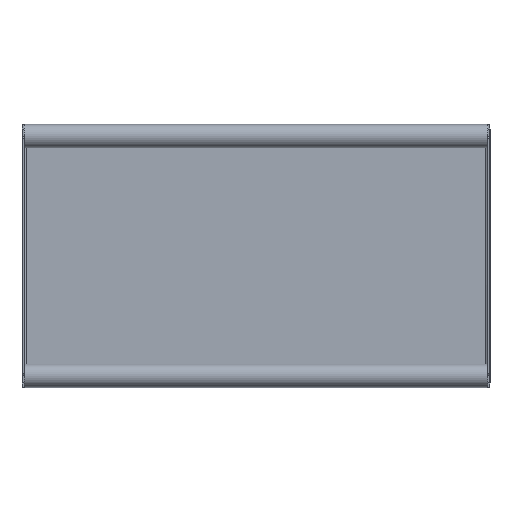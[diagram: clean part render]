
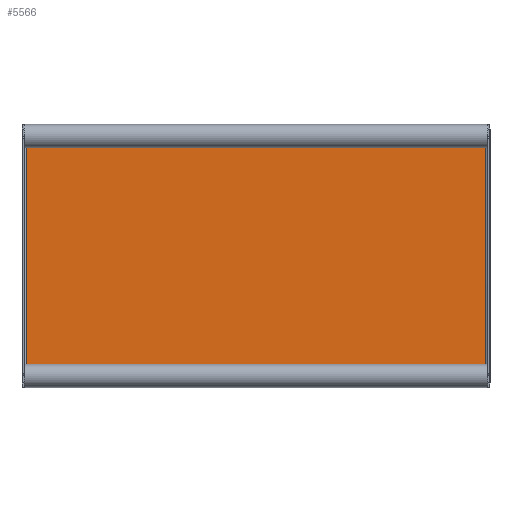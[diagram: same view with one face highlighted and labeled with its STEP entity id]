
A CAD part, front view. The second image highlights one B-rep face of the part: STEP entity #5566.
In plain terms, the highlighted planar face has unit normal (0, -1, 0).
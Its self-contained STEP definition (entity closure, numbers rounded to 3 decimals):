
#4 = VERTEX_POINT ( 'NONE', #8066 ) ;
#209 = DIRECTION ( 'NONE',  ( 0., 0., 1. ) ) ;
#298 = CARTESIAN_POINT ( 'NONE',  ( -195., -2., 108.5 ) ) ;
#339 = ORIENTED_EDGE ( 'NONE', *, *, #3906, .F. ) ;
#669 = CARTESIAN_POINT ( 'NONE',  ( -199., -2., -108.5 ) ) ;
#846 = EDGE_CURVE ( 'NONE', #1176, #7858, #3732, .T. ) ;
#882 = DIRECTION ( 'NONE',  ( 0., -1., 0. ) ) ;
#1108 = CIRCLE ( 'NONE', #4783, 5. ) ;
#1115 = EDGE_CURVE ( 'NONE', #7905, #5925, #1269, .T. ) ;
#1176 = VERTEX_POINT ( 'NONE', #3831 ) ;
#1269 = LINE ( 'NONE', #6132, #6744 ) ;
#1504 = EDGE_CURVE ( 'NONE', #5925, #10152, #5273, .T. ) ;
#1653 = VECTOR ( 'NONE', #7944, 1000. ) ;
#1668 = CARTESIAN_POINT ( 'NONE',  ( -199., -2., -111.5 ) ) ;
#2239 = ORIENTED_EDGE ( 'NONE', *, *, #6024, .F. ) ;
#2288 = DIRECTION ( 'NONE',  ( 0., -1., 0. ) ) ;
#2372 = CARTESIAN_POINT ( 'NONE',  ( -196., -2., 107.5 ) ) ;
#2518 = EDGE_CURVE ( 'NONE', #9271, #4, #1108, .T. ) ;
#2580 = CARTESIAN_POINT ( 'NONE',  ( 195., -2., -108.5 ) ) ;
#2634 = AXIS2_PLACEMENT_3D ( 'NONE', #3609, #9202, #10078 ) ;
#3089 = CARTESIAN_POINT ( 'NONE',  ( -199., -2., 108.5 ) ) ;
#3323 = VERTEX_POINT ( 'NONE', #5680 ) ;
#3477 = ORIENTED_EDGE ( 'NONE', *, *, #9228, .F. ) ;
#3609 = CARTESIAN_POINT ( 'NONE',  ( -199., -2., -111.5 ) ) ;
#3732 = LINE ( 'NONE', #669, #6248 ) ;
#3759 = ORIENTED_EDGE ( 'NONE', *, *, #8896, .T. ) ;
#3774 = DIRECTION ( 'NONE',  ( 0., 0., 1. ) ) ;
#3796 = DIRECTION ( 'NONE',  ( 0., 0., 1. ) ) ;
#3831 = CARTESIAN_POINT ( 'NONE',  ( -195., -2., -108.5 ) ) ;
#3906 = EDGE_CURVE ( 'NONE', #1176, #7905, #7114, .T. ) ;
#3970 = CIRCLE ( 'NONE', #6972, 5. ) ;
#3971 = CARTESIAN_POINT ( 'NONE',  ( 196., -2., -111.5 ) ) ;
#4027 = LINE ( 'NONE', #3971, #1653 ) ;
#4338 = ORIENTED_EDGE ( 'NONE', *, *, #1504, .F. ) ;
#4783 = AXIS2_PLACEMENT_3D ( 'NONE', #6865, #2288, #3796 ) ;
#5223 = CARTESIAN_POINT ( 'NONE',  ( -196., -2., -107.5 ) ) ;
#5231 = PLANE ( 'NONE',  #2634 ) ;
#5273 = CIRCLE ( 'NONE', #5600, 5. ) ;
#5566 = ADVANCED_FACE ( 'NONE', ( #6944 ), #5231, .F. ) ;
#5600 = AXIS2_PLACEMENT_3D ( 'NONE', #8281, #5848, #8180 ) ;
#5680 = CARTESIAN_POINT ( 'NONE',  ( 196., -2., -107.5 ) ) ;
#5694 = CARTESIAN_POINT ( 'NONE',  ( 195., -2., 108.5 ) ) ;
#5848 = DIRECTION ( 'NONE',  ( 0., -1., 0. ) ) ;
#5925 = VERTEX_POINT ( 'NONE', #2372 ) ;
#6024 = EDGE_CURVE ( 'NONE', #10152, #9271, #8713, .T. ) ;
#6132 = CARTESIAN_POINT ( 'NONE',  ( -196., -2., -111.5 ) ) ;
#6248 = VECTOR ( 'NONE', #8483, 1000. ) ;
#6278 = DIRECTION ( 'NONE',  ( 1., 0., 0. ) ) ;
#6464 = DIRECTION ( 'NONE',  ( 0., 0., 1. ) ) ;
#6744 = VECTOR ( 'NONE', #3774, 1000. ) ;
#6865 = CARTESIAN_POINT ( 'NONE',  ( 199., -2., 111.5 ) ) ;
#6944 = FACE_OUTER_BOUND ( 'NONE', #7885, .T. ) ;
#6972 = AXIS2_PLACEMENT_3D ( 'NONE', #8878, #8082, #209 ) ;
#7114 = CIRCLE ( 'NONE', #8415, 5. ) ;
#7609 = VECTOR ( 'NONE', #6278, 1000. ) ;
#7858 = VERTEX_POINT ( 'NONE', #2580 ) ;
#7885 = EDGE_LOOP ( 'NONE', ( #3477, #3759, #9925, #2239, #4338, #8283, #339, #8232 ) ) ;
#7905 = VERTEX_POINT ( 'NONE', #5223 ) ;
#7944 = DIRECTION ( 'NONE',  ( 0., 0., 1. ) ) ;
#8066 = CARTESIAN_POINT ( 'NONE',  ( 196., -2., 107.5 ) ) ;
#8082 = DIRECTION ( 'NONE',  ( 0., -1., 0. ) ) ;
#8180 = DIRECTION ( 'NONE',  ( 0., 0., 1. ) ) ;
#8232 = ORIENTED_EDGE ( 'NONE', *, *, #846, .T. ) ;
#8281 = CARTESIAN_POINT ( 'NONE',  ( -199., -2., 111.5 ) ) ;
#8283 = ORIENTED_EDGE ( 'NONE', *, *, #1115, .F. ) ;
#8415 = AXIS2_PLACEMENT_3D ( 'NONE', #1668, #882, #6464 ) ;
#8483 = DIRECTION ( 'NONE',  ( 1., 0., 0. ) ) ;
#8713 = LINE ( 'NONE', #3089, #7609 ) ;
#8878 = CARTESIAN_POINT ( 'NONE',  ( 199., -2., -111.5 ) ) ;
#8896 = EDGE_CURVE ( 'NONE', #3323, #4, #4027, .T. ) ;
#9202 = DIRECTION ( 'NONE',  ( 0., 1., 0. ) ) ;
#9228 = EDGE_CURVE ( 'NONE', #3323, #7858, #3970, .T. ) ;
#9271 = VERTEX_POINT ( 'NONE', #5694 ) ;
#9925 = ORIENTED_EDGE ( 'NONE', *, *, #2518, .F. ) ;
#10078 = DIRECTION ( 'NONE',  ( 0., 0., 1. ) ) ;
#10152 = VERTEX_POINT ( 'NONE', #298 ) ;
